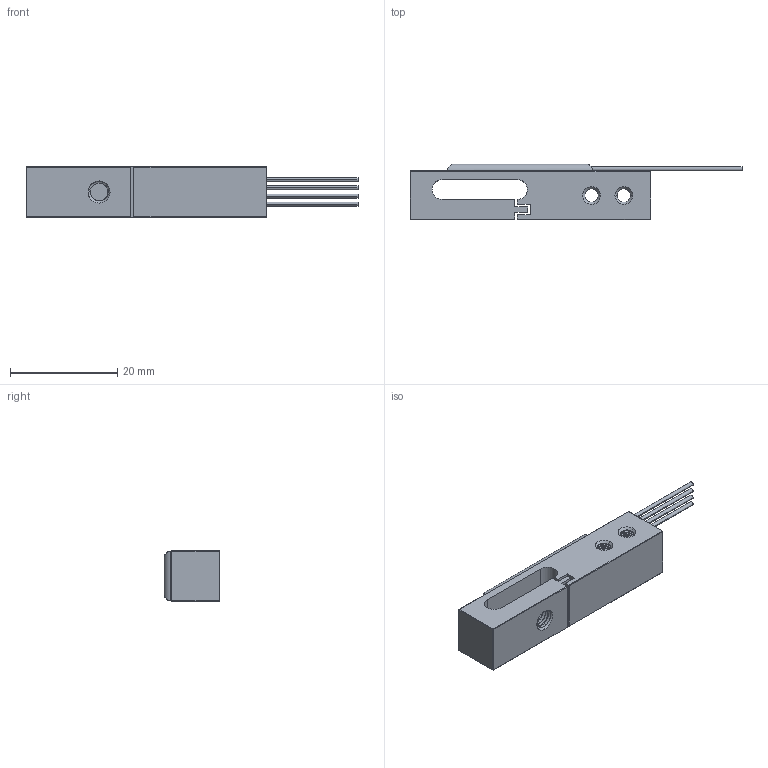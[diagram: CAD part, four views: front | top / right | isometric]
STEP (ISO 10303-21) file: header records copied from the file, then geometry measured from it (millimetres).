
FILE_DESCRIPTION (( 'STEP AP203' ), '1' );
FILE_NAME ('SLCD.STEP', '2024-10-17T13:03:00', ( '' ), ( '' ), 'SwSTEP 2.0', 'SolidWorks 2019', '' );
FILE_SCHEMA (( 'CONFIG_CONTROL_DESIGN' ));
Length unit declared in the file: millimetre
Products named in the file (1): SLCD
Bounding box: 61.8 x 10.4 x 9.4 mm (x, y, z)
Volume: 3401 mm3; surface area: 2794.3 mm2
Topology: 1 solids, 1 shells, 170 faces, 446 edges, 282 vertices
Faces by surface type: cylinder 96, plane 55, cone 10, bspline 9
Entity records: 11342 total; most frequent: CARTESIAN_POINT 7635, ORIENTED_EDGE 892, DIRECTION 611, EDGE_CURVE 446, VERTEX_POINT 282, LINE 219, VECTOR 219, AXIS2_PLACEMENT_3D 196
